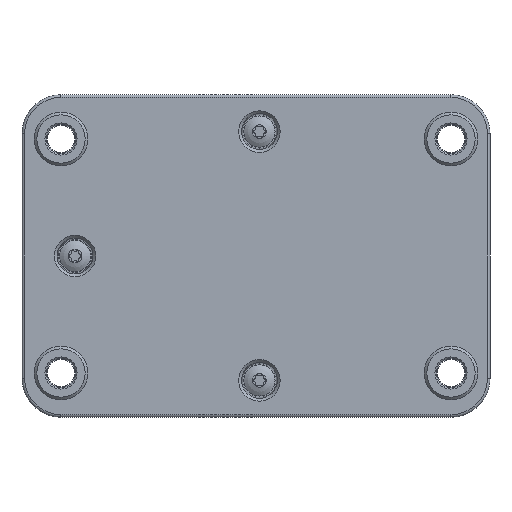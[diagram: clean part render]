
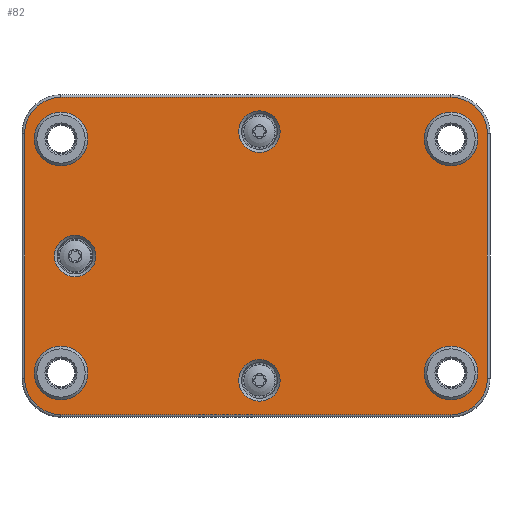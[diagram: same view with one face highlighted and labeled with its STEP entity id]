
A CAD part, front view. The second image highlights one B-rep face of the part: STEP entity #82.
In plain terms, the highlighted planar face has unit normal (0, -1, 0).
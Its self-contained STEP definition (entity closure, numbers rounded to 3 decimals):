
#82 = ADVANCED_FACE( '', ( #302, #303, #304, #305, #306, #307, #308, #309 ), #310, .F. );
#302 = FACE_OUTER_BOUND( '', #810, .T. );
#303 = FACE_BOUND( '', #811, .T. );
#304 = FACE_BOUND( '', #812, .T. );
#305 = FACE_BOUND( '', #813, .T. );
#306 = FACE_BOUND( '', #814, .T. );
#307 = FACE_BOUND( '', #815, .T. );
#308 = FACE_BOUND( '', #816, .T. );
#309 = FACE_BOUND( '', #817, .T. );
#310 = PLANE( '', #818 );
#810 = EDGE_LOOP( '', ( #1697, #1698, #1699, #1700, #1701, #1702, #1703, #1704 ) );
#811 = EDGE_LOOP( '', ( #1705 ) );
#812 = EDGE_LOOP( '', ( #1706 ) );
#813 = EDGE_LOOP( '', ( #1707 ) );
#814 = EDGE_LOOP( '', ( #1708 ) );
#815 = EDGE_LOOP( '', ( #1709 ) );
#816 = EDGE_LOOP( '', ( #1710 ) );
#817 = EDGE_LOOP( '', ( #1711 ) );
#818 = AXIS2_PLACEMENT_3D( '', #1712, #1713, #1714 );
#1697 = ORIENTED_EDGE( '', *, *, #3218, .F. );
#1698 = ORIENTED_EDGE( '', *, *, #3219, .T. );
#1699 = ORIENTED_EDGE( '', *, *, #3220, .F. );
#1700 = ORIENTED_EDGE( '', *, *, #3221, .T. );
#1701 = ORIENTED_EDGE( '', *, *, #3222, .T. );
#1702 = ORIENTED_EDGE( '', *, *, #3223, .F. );
#1703 = ORIENTED_EDGE( '', *, *, #3224, .T. );
#1704 = ORIENTED_EDGE( '', *, *, #3225, .F. );
#1705 = ORIENTED_EDGE( '', *, *, #3226, .F. );
#1706 = ORIENTED_EDGE( '', *, *, #3227, .F. );
#1707 = ORIENTED_EDGE( '', *, *, #3228, .F. );
#1708 = ORIENTED_EDGE( '', *, *, #3229, .F. );
#1709 = ORIENTED_EDGE( '', *, *, #3230, .F. );
#1710 = ORIENTED_EDGE( '', *, *, #3231, .F. );
#1711 = ORIENTED_EDGE( '', *, *, #3232, .F. );
#1712 = CARTESIAN_POINT( '', ( -38., 0., -24. ) );
#1713 = DIRECTION( '', ( 0., 1., 0. ) );
#1714 = DIRECTION( '', ( 0., 0., 1. ) );
#3218 = EDGE_CURVE( '', #3711, #3712, #3713, .T. );
#3219 = EDGE_CURVE( '', #3711, #3714, #3715, .T. );
#3220 = EDGE_CURVE( '', #3716, #3714, #3717, .T. );
#3221 = EDGE_CURVE( '', #3716, #3718, #3719, .T. );
#3222 = EDGE_CURVE( '', #3718, #3720, #3721, .T. );
#3223 = EDGE_CURVE( '', #3722, #3720, #3723, .T. );
#3224 = EDGE_CURVE( '', #3722, #3724, #3725, .T. );
#3225 = EDGE_CURVE( '', #3712, #3724, #3726, .T. );
#3226 = EDGE_CURVE( '', #3727, #3727, #3728, .F. );
#3227 = EDGE_CURVE( '', #3729, #3729, #3730, .F. );
#3228 = EDGE_CURVE( '', #3731, #3731, #3732, .F. );
#3229 = EDGE_CURVE( '', #3733, #3733, #3734, .T. );
#3230 = EDGE_CURVE( '', #3735, #3735, #3736, .T. );
#3231 = EDGE_CURVE( '', #3737, #3737, #3738, .T. );
#3232 = EDGE_CURVE( '', #3739, #3739, #3740, .T. );
#3711 = VERTEX_POINT( '', #4549 );
#3712 = VERTEX_POINT( '', #4550 );
#3713 = CIRCLE( '', #4551, 7. );
#3714 = VERTEX_POINT( '', #4552 );
#3715 = LINE( '', #4553, #4554 );
#3716 = VERTEX_POINT( '', #4555 );
#3717 = CIRCLE( '', #4556, 7. );
#3718 = VERTEX_POINT( '', #4557 );
#3719 = LINE( '', #4558, #4559 );
#3720 = VERTEX_POINT( '', #4560 );
#3721 = CIRCLE( '', #4561, 7. );
#3722 = VERTEX_POINT( '', #4562 );
#3723 = LINE( '', #4563, #4564 );
#3724 = VERTEX_POINT( '', #4565 );
#3725 = CIRCLE( '', #4566, 7. );
#3726 = LINE( '', #4567, #4568 );
#3727 = VERTEX_POINT( '', #4569 );
#3728 = CIRCLE( '', #4570, 3.986 );
#3729 = VERTEX_POINT( '', #4571 );
#3730 = CIRCLE( '', #4572, 3.986 );
#3731 = VERTEX_POINT( '', #4573 );
#3732 = CIRCLE( '', #4574, 3.986 );
#3733 = VERTEX_POINT( '', #4575 );
#3734 = CIRCLE( '', #4576, 5.15 );
#3735 = VERTEX_POINT( '', #4577 );
#3736 = CIRCLE( '', #4578, 5.15 );
#3737 = VERTEX_POINT( '', #4579 );
#3738 = CIRCLE( '', #4580, 5.15 );
#3739 = VERTEX_POINT( '', #4581 );
#3740 = CIRCLE( '', #4582, 5.15 );
#4549 = CARTESIAN_POINT( '', ( 37.5, 0., 30.5 ) );
#4550 = CARTESIAN_POINT( '', ( 44.5, 0., 23.5 ) );
#4551 = AXIS2_PLACEMENT_3D( '', #6079, #6080, #6081 );
#4552 = CARTESIAN_POINT( '', ( -37.5, 0., 30.5 ) );
#4553 = CARTESIAN_POINT( '', ( 37.5, 0., 30.5 ) );
#4554 = VECTOR( '', #6082, 1000. );
#4555 = CARTESIAN_POINT( '', ( -44.5, 0., 23.5 ) );
#4556 = AXIS2_PLACEMENT_3D( '', #6083, #6084, #6085 );
#4557 = CARTESIAN_POINT( '', ( -44.5, 0., -23.5 ) );
#4558 = CARTESIAN_POINT( '', ( -44.5, 0., 37.5 ) );
#4559 = VECTOR( '', #6086, 1000. );
#4560 = CARTESIAN_POINT( '', ( -37.5, 0., -30.5 ) );
#4561 = AXIS2_PLACEMENT_3D( '', #6087, #6088, #6089 );
#4562 = CARTESIAN_POINT( '', ( 37.5, 0., -30.5 ) );
#4563 = CARTESIAN_POINT( '', ( 37.5, 0., -30.5 ) );
#4564 = VECTOR( '', #6090, 1000. );
#4565 = CARTESIAN_POINT( '', ( 44.5, 0., -23.5 ) );
#4566 = AXIS2_PLACEMENT_3D( '', #6091, #6092, #6093 );
#4567 = CARTESIAN_POINT( '', ( 44.5, 0., 37.5 ) );
#4568 = VECTOR( '', #6094, 1000. );
#4569 = CARTESIAN_POINT( '', ( 0.665, 0., 27.911 ) );
#4570 = AXIS2_PLACEMENT_3D( '', #6095, #6096, #6097 );
#4571 = CARTESIAN_POINT( '', ( 0.665, 0., -19.939 ) );
#4572 = AXIS2_PLACEMENT_3D( '', #6098, #6099, #6100 );
#4573 = CARTESIAN_POINT( '', ( -34.8, 0., 3.986 ) );
#4574 = AXIS2_PLACEMENT_3D( '', #6101, #6102, #6103 );
#4575 = CARTESIAN_POINT( '', ( -37.5, 0., -27.65 ) );
#4576 = AXIS2_PLACEMENT_3D( '', #6104, #6105, #6106 );
#4577 = CARTESIAN_POINT( '', ( 37.5, 0., -27.65 ) );
#4578 = AXIS2_PLACEMENT_3D( '', #6107, #6108, #6109 );
#4579 = CARTESIAN_POINT( '', ( -37.5, 0., 17.35 ) );
#4580 = AXIS2_PLACEMENT_3D( '', #6110, #6111, #6112 );
#4581 = CARTESIAN_POINT( '', ( 37.5, 0., 17.35 ) );
#4582 = AXIS2_PLACEMENT_3D( '', #6113, #6114, #6115 );
#6079 = CARTESIAN_POINT( '', ( 37.5, 0., 23.5 ) );
#6080 = DIRECTION( '', ( 0., 1., 0. ) );
#6081 = DIRECTION( '', ( 0., 0., 1. ) );
#6082 = DIRECTION( '', ( -1., 0., 0. ) );
#6083 = CARTESIAN_POINT( '', ( -37.5, 0., 23.5 ) );
#6084 = DIRECTION( '', ( 0., 1., 0. ) );
#6085 = DIRECTION( '', ( 0., 0., 1. ) );
#6086 = DIRECTION( '', ( 0., 0., -1. ) );
#6087 = CARTESIAN_POINT( '', ( -37.5, 0., -23.5 ) );
#6088 = DIRECTION( '', ( 0., -1., 0. ) );
#6089 = DIRECTION( '', ( 0., 0., -1. ) );
#6090 = DIRECTION( '', ( -1., 0., 0. ) );
#6091 = CARTESIAN_POINT( '', ( 37.5, 0., -23.5 ) );
#6092 = DIRECTION( '', ( 0., -1., 0. ) );
#6093 = DIRECTION( '', ( 0., 0., -1. ) );
#6094 = DIRECTION( '', ( 0., 0., -1. ) );
#6095 = CARTESIAN_POINT( '', ( 0.665, 0., 23.925 ) );
#6096 = DIRECTION( '', ( 0., 1., 0. ) );
#6097 = DIRECTION( '', ( 0., 0., 1. ) );
#6098 = CARTESIAN_POINT( '', ( 0.665, 0., -23.925 ) );
#6099 = DIRECTION( '', ( 0., 1., 0. ) );
#6100 = DIRECTION( '', ( 0., 0., 1. ) );
#6101 = CARTESIAN_POINT( '', ( -34.8, 0., 0. ) );
#6102 = DIRECTION( '', ( 0., 1., 0. ) );
#6103 = DIRECTION( '', ( 0., 0., 1. ) );
#6104 = CARTESIAN_POINT( '', ( -37.5, 0., -22.5 ) );
#6105 = DIRECTION( '', ( 0., -1., 0. ) );
#6106 = DIRECTION( '', ( 0., 0., -1. ) );
#6107 = CARTESIAN_POINT( '', ( 37.5, 0., -22.5 ) );
#6108 = DIRECTION( '', ( 0., -1., 0. ) );
#6109 = DIRECTION( '', ( 0., 0., -1. ) );
#6110 = CARTESIAN_POINT( '', ( -37.5, 0., 22.5 ) );
#6111 = DIRECTION( '', ( 0., -1., 0. ) );
#6112 = DIRECTION( '', ( 0., 0., -1. ) );
#6113 = CARTESIAN_POINT( '', ( 37.5, 0., 22.5 ) );
#6114 = DIRECTION( '', ( 0., -1., 0. ) );
#6115 = DIRECTION( '', ( 0., 0., -1. ) );
